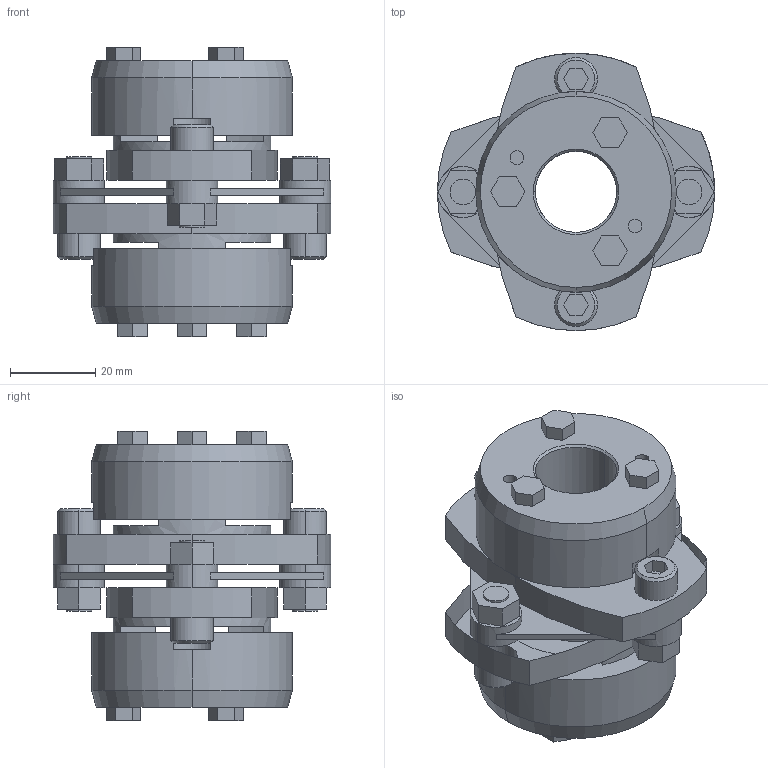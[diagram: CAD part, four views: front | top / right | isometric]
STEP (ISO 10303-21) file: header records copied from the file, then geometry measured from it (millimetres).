
FILE_DESCRIPTION((''),'2;1');
FILE_NAME('LCS-65T7-19×20.stp','2011-08-23T13:25:15',(''),(''),'AutoCAD STEP 2000i','AutoCAD 2000i',', , ');
FILE_SCHEMA(('CONFIG_CONTROL_DESIGN'));
Length unit declared in the file: millimetre
Products named in the file (9): LCS-65T7-19×19; 忣兜1; LC65T7-T019-1; LC65T7-T019; LC65T7-T017-1; LC65T7-T017; LC65T7-T015-1; LC65T7-T015; LCS65-ITA
Assembly tree (8 placements, depth 2):
  LCS-65T7-19×19
    忣兜1
    LC65T7-T019-1
    LC65T7-T019
    LC65T7-T017-1
    LC65T7-T017
    LC65T7-T015-1
    LC65T7-T015
    LCS65-ITA
Bounding box: 65 x 65 x 67.9 mm (x, y, z)
Volume: 88996.3 mm3; surface area: 30032.1 mm2
Topology: 1 solids, 1 shells, 228 faces, 586 edges, 382 vertices
Faces by surface type: plane 136, cylinder 72, cone 20
Entity records: 7195 total; most frequent: DIRECTION 1270, CARTESIAN_POINT 1205, ORIENTED_EDGE 1172, EDGE_CURVE 586, AXIS2_PLACEMENT_3D 447, VERTEX_POINT 382, VECTOR 376, LINE 376
